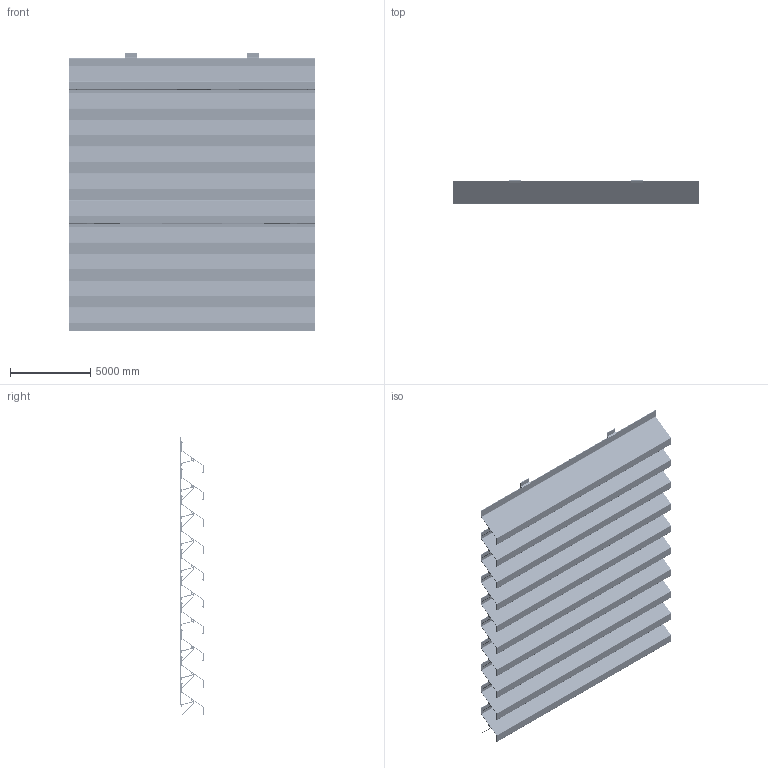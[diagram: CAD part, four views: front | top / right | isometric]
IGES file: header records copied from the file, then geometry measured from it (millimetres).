
Global section: file name: 3D_L_066IM1; native system: AutoCAD 2023 - English; preprocessor: Autodesk Translation Framework DWG producer (atf_dwg_producer); organization: unknown; date: 20260202.112014; units: inch
Bounding box: 15387.32 x 1447.8 x 17365.98 mm (x, y, z)
Volume: 22184603169.1 mm3; surface area: 1226809565.4 mm2
Topology: 10 solids, 10 shells, 11690 faces, 35130 edges, 23380 vertices
Faces by surface type: bspline 11690
